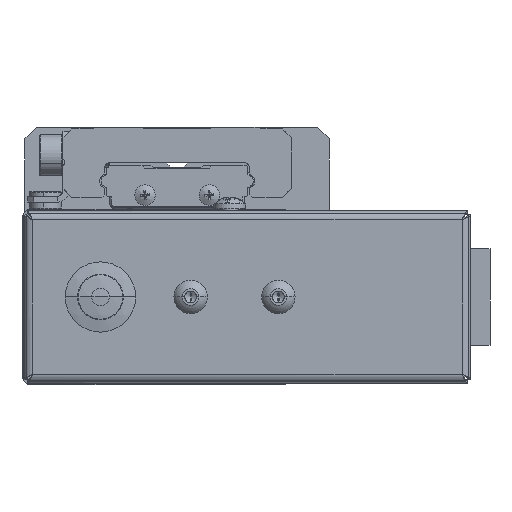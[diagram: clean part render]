
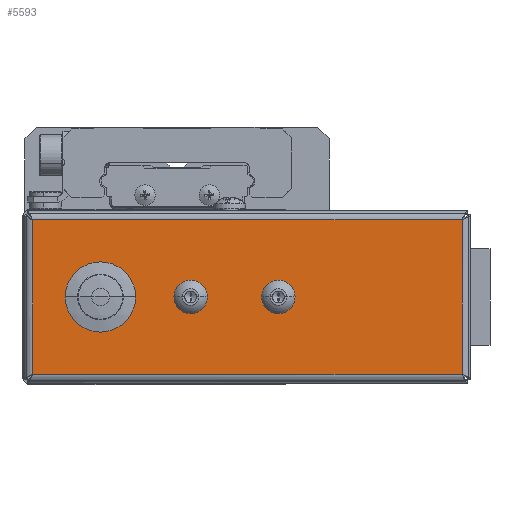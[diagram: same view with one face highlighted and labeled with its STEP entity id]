
A CAD part, left-side view. The second image highlights one B-rep face of the part: STEP entity #5593.
In plain terms, the highlighted planar face has unit normal (-1, 0, 0) as drawn and (0, 0, -1) by its records, which use the part's own axes.
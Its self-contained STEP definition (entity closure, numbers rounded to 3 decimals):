
#746 = VECTOR ( 'NONE', #6844, 1000. ) ;
#2087 = EDGE_LOOP ( 'NONE', ( #31585, #18122 ) ) ;
#2189 = AXIS2_PLACEMENT_3D ( 'NONE', #38781, #5296, #19053 ) ;
#2650 = VERTEX_POINT ( 'NONE', #29726 ) ;
#2772 = CARTESIAN_POINT ( 'NONE',  ( 1.5, 27.9, -0.5 ) ) ;
#3275 = VERTEX_POINT ( 'NONE', #13813 ) ;
#4397 = VECTOR ( 'NONE', #16462, 1000. ) ;
#5296 = DIRECTION ( 'NONE',  ( 0., 0., -1. ) ) ;
#5568 = PLANE ( 'NONE',  #2189 ) ;
#5577 = ORIENTED_EDGE ( 'NONE', *, *, #39177, .T. ) ;
#5593 = ADVANCED_FACE ( 'NONE', ( #17111, #37691 ), #5568, .T. ) ;
#5830 = LINE ( 'NONE', #24633, #28608 ) ;
#6623 = CARTESIAN_POINT ( 'NONE',  ( 1.5, 1.5, -0.5 ) ) ;
#6844 = DIRECTION ( 'NONE',  ( 0., 1., 0. ) ) ;
#6929 = CARTESIAN_POINT ( 'NONE',  ( 0.571, 27.9, -0.5 ) ) ;
#6963 = DIRECTION ( 'NONE',  ( 0., 0., -1. ) ) ;
#8163 = ORIENTED_EDGE ( 'NONE', *, *, #19147, .T. ) ;
#9519 = LINE ( 'NONE', #33102, #746 ) ;
#10174 = DIRECTION ( 'NONE',  ( -1., 0., 0. ) ) ;
#11596 = DIRECTION ( 'NONE',  ( -1., 0., 0. ) ) ;
#13813 = CARTESIAN_POINT ( 'NONE',  ( 67.1, 14.7, -0.5 ) ) ;
#14318 = VERTEX_POINT ( 'NONE', #2772 ) ;
#16381 = AXIS2_PLACEMENT_3D ( 'NONE', #40848, #24049, #27330 ) ;
#16462 = DIRECTION ( 'NONE',  ( 0., -1., 0. ) ) ;
#17111 = FACE_BOUND ( 'NONE', #2087, .T. ) ;
#18122 = ORIENTED_EDGE ( 'NONE', *, *, #34873, .F. ) ;
#18148 = VERTEX_POINT ( 'NONE', #38873 ) ;
#19053 = DIRECTION ( 'NONE',  ( -1., 0., 0. ) ) ;
#19147 = EDGE_CURVE ( 'NONE', #33057, #2650, #23067, .T. ) ;
#19618 = EDGE_CURVE ( 'NONE', #18148, #3275, #25621, .T. ) ;
#20583 = EDGE_CURVE ( 'NONE', #42322, #14318, #9519, .T. ) ;
#21257 = EDGE_CURVE ( 'NONE', #14318, #33057, #34197, .T. ) ;
#23067 = LINE ( 'NONE', #36310, #4397 ) ;
#23556 = CIRCLE ( 'NONE', #16381, 3.8 ) ;
#24049 = DIRECTION ( 'NONE',  ( 0., 0., -1. ) ) ;
#24633 = CARTESIAN_POINT ( 'NONE',  ( 75.829, 1.5, -0.5 ) ) ;
#25621 = CIRCLE ( 'NONE', #28811, 3.8 ) ;
#26919 = DIRECTION ( 'NONE',  ( 1., 0., 0. ) ) ;
#27093 = ORIENTED_EDGE ( 'NONE', *, *, #20583, .T. ) ;
#27330 = DIRECTION ( 'NONE',  ( -1., 0., 0. ) ) ;
#28608 = VECTOR ( 'NONE', #11596, 1000. ) ;
#28811 = AXIS2_PLACEMENT_3D ( 'NONE', #33509, #6963, #10174 ) ;
#29726 = CARTESIAN_POINT ( 'NONE',  ( 74.9, 1.5, -0.5 ) ) ;
#31585 = ORIENTED_EDGE ( 'NONE', *, *, #19618, .F. ) ;
#33057 = VERTEX_POINT ( 'NONE', #38085 ) ;
#33102 = CARTESIAN_POINT ( 'NONE',  ( 1.5, 0.571, -0.5 ) ) ;
#33509 = CARTESIAN_POINT ( 'NONE',  ( 63.3, 14.7, -0.5 ) ) ;
#33713 = VECTOR ( 'NONE', #26919, 1000. ) ;
#34197 = LINE ( 'NONE', #6929, #33713 ) ;
#34311 = EDGE_LOOP ( 'NONE', ( #8163, #5577, #27093, #41607 ) ) ;
#34873 = EDGE_CURVE ( 'NONE', #3275, #18148, #23556, .T. ) ;
#36310 = CARTESIAN_POINT ( 'NONE',  ( 74.9, 28.829, -0.5 ) ) ;
#37691 = FACE_OUTER_BOUND ( 'NONE', #34311, .T. ) ;
#38085 = CARTESIAN_POINT ( 'NONE',  ( 74.9, 27.9, -0.5 ) ) ;
#38781 = CARTESIAN_POINT ( 'NONE',  ( 0., 0., -0.5 ) ) ;
#38873 = CARTESIAN_POINT ( 'NONE',  ( 59.5, 14.7, -0.5 ) ) ;
#39177 = EDGE_CURVE ( 'NONE', #2650, #42322, #5830, .T. ) ;
#40848 = CARTESIAN_POINT ( 'NONE',  ( 63.3, 14.7, -0.5 ) ) ;
#41607 = ORIENTED_EDGE ( 'NONE', *, *, #21257, .T. ) ;
#42322 = VERTEX_POINT ( 'NONE', #6623 ) ;
